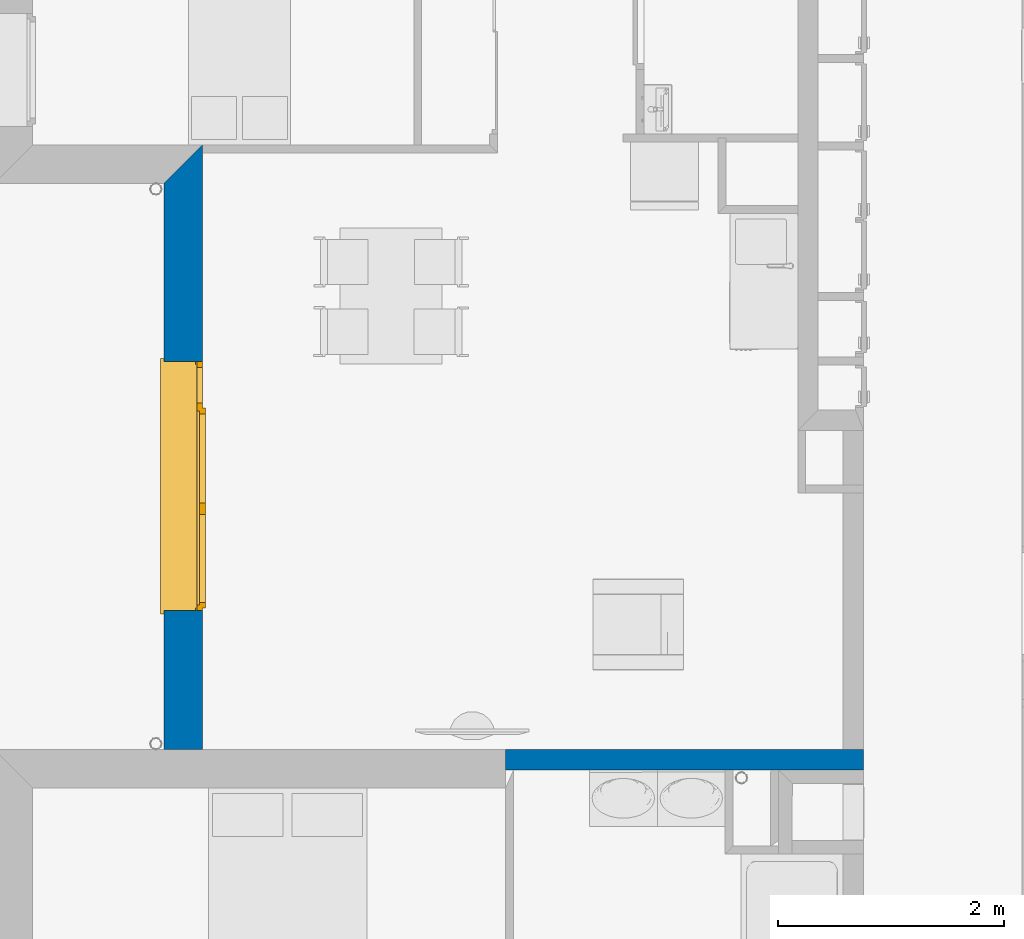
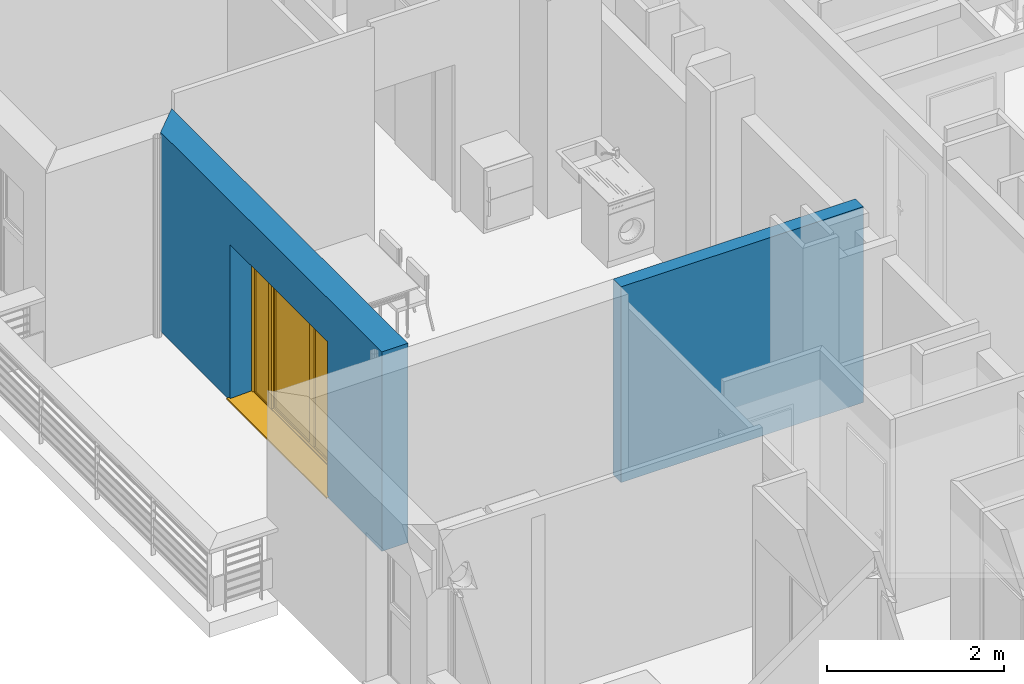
# One storey, part 20 of 164: 2 walls, 1 window, 1 opening.
"""IFC2X3 building model written with IfcOpenShell, lengths in millimetres."""

from ifc_helpers import new_model, entity, si_unit, converted_unit, derived_unit, money_unit, direction, frame, origin_with_axes, place, context, subcontext, project, spatial, polyline, outline, extrude, open_shell, faceted_brep, surface_model, source, transform, mapped, material, layer, layer_set, layer_usage, type_object, element, fill, save


model = new_model("IFC2X3")

# Units and contexts
model_context = context("Model", 3, precision=0.01, world=origin_with_axes(), true_north=direction((0.0, 1.0)))
body_context = subcontext(model_context, "Body", "Model", "MODEL_VIEW")
ifc_project = project(units=[si_unit("LENGTHUNIT", "METRE", prefix="MILLI"), si_unit("AREAUNIT", "SQUARE_METRE"), si_unit("VOLUMEUNIT", "CUBIC_METRE"), converted_unit("PLANEANGLEUNIT", "DEGREE", entity("IfcPlaneAngleMeasure", 0.0174532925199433), si_unit("PLANEANGLEUNIT", "RADIAN"), dimensions=[0, 0, 0, 0, 0, 0, 0]), money_unit("USD"), converted_unit("TIMEUNIT", "Year", entity("IfcTimeMeasure", 31557600.0), si_unit("TIMEUNIT", "SECOND"), dimensions=[0, 0, 1, 0, 0, 0, 0]), si_unit("MASSUNIT", "GRAM", prefix="KILO"), si_unit("THERMODYNAMICTEMPERATUREUNIT", "DEGREE_CELSIUS"), si_unit("LUMINOUSINTENSITYUNIT", "LUMEN"), si_unit("ENERGYUNIT", "JOULE", prefix="MEGA"), derived_unit("THERMALCONDUCTANCEUNIT", [(si_unit("POWERUNIT", "WATT"), 1), (si_unit("LENGTHUNIT", "METRE"), -1), (si_unit("THERMODYNAMICTEMPERATUREUNIT", "KELVIN"), -1)]), derived_unit("SPECIFICHEATCAPACITYUNIT", [(si_unit("ENERGYUNIT", "JOULE"), 1), (si_unit("MASSUNIT", "GRAM", prefix="KILO"), -1), (si_unit("THERMODYNAMICTEMPERATUREUNIT", "KELVIN"), -1)]), derived_unit("MASSDENSITYUNIT", [(si_unit("MASSUNIT", "GRAM", prefix="KILO"), 1), (si_unit("VOLUMEUNIT", "CUBIC_METRE"), -1)])], contexts=[model_context])

# Site, building, storey
site_placement = place(None, origin_with_axes())
site = spatial("IfcSite", under=ifc_project, at=site_placement, Name="Site", CompositionType="ELEMENT")
building_placement = place(site_placement, origin_with_axes())
building = spatial("IfcBuilding", under=site, at=building_placement, Name="Bâtiment", CompositionType="ELEMENT")
storey_placement = place(building_placement, frame((0.0, 0.0, 5750.0), z_axis=(0.0, 0.0, 1.0), x_axis=(1.0, 0.0, 0.0)))
storey = spatial("IfcBuildingStorey", under=building, at=storey_placement, Name="Etage1", CompositionType="ELEMENT", Elevation=5750.0)

# Wall
ifc_material_1 = material(Name="Parpaing 314940890")
ifc_layer_1 = layer(ifc_material_1, 180.0, ventilated="UNKNOWN")
ifc_layer_set_1 = layer_set([ifc_layer_1], Name="Beton  18 0018356637")
ifc_layer_usage_1 = layer_usage(ifc_layer_set_1, "AXIS2", "NEGATIVE", 0.0)
wall_type_1 = type_object("IfcWallType", Name="Beton  18 0018356637 180", PredefinedType="NOTDEFINED")
wall_1_placement = place(storey_placement, frame((2221152.351167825, -644016.3764661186, 0.0), z_axis=(0.0, 0.0, 1.0), x_axis=(0.9999999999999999, 1.891933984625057e-08, 0.0)))
element("IfcWallStandardCase", 1, at=wall_1_placement, inside=storey, type_object=wall_type_1, material=ifc_layer_usage_1, Name="Mur-142", context=body_context, shape_type="SweptSolid", body=[
    extrude(outline(polyline([(-5.654783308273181e-07, -180.0000000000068), (3160.032008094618, -180.0000000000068), (3160.032008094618, 0.0), (-1.13686837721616e-10, 0.0), (-5.654783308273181e-07, -180.0000000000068)])), origin_with_axes(), (0.0, 0.0, 1.0), 2700.0),
])

# Wall, opening, window
ifc_material_2 = material(Name="Parpaing 312445824")
ifc_layer_2 = layer(ifc_material_2, 180.0, ventilated="UNKNOWN")
ifc_material_3 = material(Name="Isolant styromousse 301821074")
ifc_layer_3 = layer(ifc_material_3, 160.0, ventilated="UNKNOWN")
ifc_layer_set_2 = layer_set([ifc_layer_2, ifc_layer_3], Name="isol int 18+16 0018356637")
ifc_layer_usage_2 = layer_usage(ifc_layer_set_2, "AXIS2", "POSITIVE", 0.0)
wall_type_2 = type_object("IfcWallType", Name="isol int 18+16 0018356637 340", PredefinedType="NOTDEFINED")
wall_2_placement = place(storey_placement, frame((2218134.314050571, -639016.8076992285, 0.0), z_axis=(0.0, 0.0, 1.0), x_axis=(-1.614254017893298e-05, -0.9999999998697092, 0.0)))
wall_2 = element("IfcWallStandardCase", 2, at=wall_2_placement, inside=storey, type_object=wall_type_2, material=ifc_layer_usage_2, Name="Mur-143", context=body_context, shape_type="SweptSolid", body=[
    extrude(outline(polyline([(0.0, 0.0), (4999.568805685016, 0.0), (4999.563312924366, 340.0000000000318), (-340.0054885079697, 339.9999999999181), (0.0, 0.0)])), origin_with_axes(), (0.0, 0.0, 1.0), 2750.0),
])
opening_placement = place(wall_2_placement, frame((2673.994690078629, -1.13686837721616e-10, 0.0), z_axis=(0.0, 0.0, 1.0), x_axis=(1.0, 0.0, 0.0)))
opening = element("IfcOpeningElement", 3, at=opening_placement, cuts=wall_2, Name="Fen-133", context=body_context, shape_type="Brep", body=[
    faceted_brep([(-1100.000000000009, 290.000000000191, 2150.0), (-1100.000000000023, 341.080705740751, 2150.0), (-1100.000000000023, 341.080705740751, 0.0), (-1100.000000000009, 290.000000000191, 0.0), (-1100.000000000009, 280.0000000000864, 2150.0), (-1100.000000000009, 280.0000000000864, 2400.0), (-1100.000000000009, 530.0000000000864, 2400.0), (-1100.000000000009, 530.0000000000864, 2150.0), (1099.99999999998, 341.0807057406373, 2150.0), (1099.99999999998, 341.0807057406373, 0.0), (1099.999999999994, 290.0000000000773, 0.0), (1099.999999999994, -1.080705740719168, 0.0), (-1100.000000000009, -1.080705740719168, 0.0), (-1100.000000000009, -1.080705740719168, 2150.0), (1099.999999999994, 280.0000000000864, 2150.0), (1099.999999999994, 280.0000000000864, 2400.0), (1099.999999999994, 530.0000000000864, 2400.0), (1099.999999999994, 530.0000000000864, 2150.0), (1099.999999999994, 290.0000000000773, 2150.0), (1099.999999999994, -1.080705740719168, 2150.0)], [[[0, 1, 2, 3]], [[1, 0, 4, 5, 6, 7]], [[1, 8, 9, 2]], [[10, 11, 12, 3, 2, 9]], [[4, 0, 3, 12, 13]], [[4, 14, 15, 5]], [[6, 5, 15, 16]], [[7, 6, 16, 17]], [[8, 1, 7, 17]], [[8, 18, 10, 9]], [[18, 14, 19, 11, 10]], [[13, 12, 11, 19]], [[14, 4, 13, 19]], [[18, 8, 17, 16, 15, 14]]]),
])
window_style = type_object("IfcWindowStyle", Name="Fenêtre châssis double variable 27", ConstructionType="NOTDEFINED", OperationType="TRIPLE_PANEL_VERTICAL", ParameterTakesPrecedence=False, Sizeable=False)
shared_shape = source(origin_with_axes(), body_context, "Body", "SurfaceModel", [
    surface_model("IfcShellBasedSurfaceModel", [(-1100.0, -51.00000000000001, 40.00000000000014), (1100.0, -51.00000000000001, 40.0), (1100.0, -51.00000000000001, 50.0), (-1100.0, -51.00000000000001, 50.00000000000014), (-1130.0, -369.9999999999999, 28.96551724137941), (1130.0, -369.9999999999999, 28.96551724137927), (1130.0, -339.9999999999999, 30.00324289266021), (1100.0, -339.9999999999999, 30.00324289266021), (-1100.0, -339.9999999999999, 30.00324289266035), (-1130.0, -339.9999999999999, 30.00324289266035), (-1130.0, -369.9999999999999, 8.965517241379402), (1130.0, -369.9999999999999, 8.965517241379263), (-1130.0, -359.9999999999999, 18.9655172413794), (1130.0, -359.9999999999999, 18.96551724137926)], [open_shell([[[0, 1, 2, 3]], [[4, 5, 6, 7, 1, 0, 8, 9]], [[10, 11, 5, 4]], [[12, 13, 11, 10]]])]),
    faceted_brep([(1100.0, -60.00000000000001, 2400.0), (1100.0, 190.0, 2400.0), (1097.0, 190.0, 2400.0), (1097.0, -60.00000000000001, 2400.0), (1100.0, -60.00000000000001, 2150.0), (1100.0, 190.0, 2150.0), (1097.0, 190.0, 2150.0), (1097.0, -60.00000000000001, 2150.0)], [[[0, 1, 2, 3]], [[0, 4, 5, 1]], [[1, 5, 6, 2]], [[3, 2, 6, 7]], [[4, 0, 3, 7]], [[5, 4, 7, 6]]]),
    faceted_brep([(-1097.0, -59.99999999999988, 2400.0), (-1097.0, 190.0000000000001, 2400.0), (-1100.0, 190.0000000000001, 2400.0), (-1100.0, -59.99999999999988, 2400.0), (-1097.0, -59.99999999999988, 2150.0), (-1097.0, 190.0000000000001, 2150.0), (-1100.0, 190.0000000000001, 2150.0), (-1100.0, -59.99999999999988, 2150.0)], [[[0, 1, 2, 3]], [[0, 4, 5, 1]], [[1, 5, 6, 2]], [[3, 2, 6, 7]], [[4, 0, 3, 7]], [[5, 4, 7, 6]]]),
    faceted_brep([(1097.0, -60.0, 2150.0), (1097.0, -60.0, 2400.0), (-1097.0, -59.99999999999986, 2400.0), (-1097.0, -59.99999999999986, 2150.0), (1097.0, -56.99999999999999, 2150.0), (1097.0, -56.99999999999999, 2397.0), (1097.0, 187.0, 2397.0), (1097.0, 187.0, 2153.0), (1097.0, -37.99999999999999, 2153.0), (1097.0, -37.99999999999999, 2150.0), (1097.0, 190.0, 2150.0), (1097.0, 190.0, 2400.0), (-1097.0, 190.0000000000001, 2400.0), (-1097.0, 190.0000000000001, 2150.0), (-1097.0, -37.99999999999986, 2150.0), (-1097.0, -37.99999999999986, 2153.0), (-1097.0, 187.0000000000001, 2153.0), (-1097.0, 187.0000000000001, 2397.0), (-1097.0, -56.99999999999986, 2397.0), (-1097.0, -56.99999999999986, 2150.0)], [[[0, 1, 2, 3]], [[0, 4, 5, 6, 7, 8, 9, 10, 11, 1]], [[1, 11, 12, 2]], [[3, 2, 12, 13, 14, 15, 16, 17, 18, 19]], [[4, 0, 3, 19]], [[5, 4, 19, 18]], [[6, 5, 18, 17]], [[7, 6, 17, 16]], [[8, 7, 16, 15]], [[9, 8, 15, 14]], [[10, 9, 14, 13]], [[11, 10, 13, 12]]]),
    faceted_brep([(1094.0, -40.37442957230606, 2256.419644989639), (1094.0, -35.54711042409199, 2238.403844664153), (1094.0, -27.66471820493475, 2221.5), (1094.0, -16.9667554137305, 2206.22172576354), (1094.0, -3.778274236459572, 2193.033244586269), (1094.0, 11.50000000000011, 2182.335281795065), (1094.0, 28.40384466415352, 2174.452889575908), (1094.0, 46.4196449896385, 2169.625570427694), (1094.0, 65.00000000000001, 2168.0), (1094.0, 83.58035501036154, 2169.625570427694), (1094.0, 101.5961553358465, 2174.452889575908), (1094.0, 118.4999999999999, 2182.335281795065), (1094.0, 133.7782742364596, 2193.033244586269), (1094.0, 146.9667554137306, 2206.22172576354), (1094.0, 157.6647182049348, 2221.5), (1094.0, 165.5471104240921, 2238.403844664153), (1094.0, 170.3744295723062, 2256.419644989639), (1094.0, 171.9999999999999, 2275.0), (1094.0, 170.3744295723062, 2293.580355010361), (1094.0, 165.5471104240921, 2311.596155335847), (1094.0, 157.6647182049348, 2328.5), (1094.0, 146.9667554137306, 2343.77827423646), (1094.0, 133.7782742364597, 2356.96675541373), (1094.0, 118.5, 2367.664718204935), (1094.0, 101.5961553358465, 2375.547110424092), (1094.0, 83.58035501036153, 2380.374429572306), (1094.0, 64.99999999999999, 2382.0), (1094.0, 46.41964498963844, 2380.374429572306), (1094.0, 28.40384466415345, 2375.547110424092), (1094.0, 11.5, 2367.664718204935), (1094.0, -3.778274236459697, 2356.96675541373), (1094.0, -16.96675541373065, 2343.77827423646), (1094.0, -27.66471820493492, 2328.5), (1094.0, -35.54711042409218, 2311.596155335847), (1094.0, -40.37442957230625, 2293.580355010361), (1094.0, -41.99999999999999, 2275.0), (-1094.0, -40.37442957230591, 2256.419644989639), (-1094.0, -35.54711042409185, 2238.403844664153), (-1094.0, -27.66471820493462, 2221.5), (-1094.0, -16.96675541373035, 2206.22172576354), (-1094.0, -3.778274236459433, 2193.033244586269), (-1094.0, 11.50000000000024, 2182.335281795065), (-1094.0, 28.40384466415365, 2174.452889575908), (-1094.0, 46.41964498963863, 2169.625570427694), (-1094.0, 65.00000000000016, 2168.0), (-1094.0, 83.58035501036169, 2169.625570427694), (-1094.0, 101.5961553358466, 2174.452889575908), (-1094.0, 118.5000000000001, 2182.335281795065), (-1094.0, 133.7782742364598, 2193.033244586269), (-1094.0, 146.9667554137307, 2206.22172576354), (-1094.0, 157.664718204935, 2221.5), (-1094.0, 165.5471104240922, 2238.403844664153), (-1094.0, 170.3744295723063, 2256.419644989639), (-1094.0, 172.0, 2275.0), (-1094.0, 170.3744295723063, 2293.580355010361), (-1094.0, 165.5471104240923, 2311.596155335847), (-1094.0, 157.664718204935, 2328.5), (-1094.0, 146.9667554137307, 2343.77827423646), (-1094.0, 133.7782742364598, 2356.96675541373), (-1094.0, 118.5000000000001, 2367.664718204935), (-1094.0, 101.5961553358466, 2375.547110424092), (-1094.0, 83.58035501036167, 2380.374429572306), (-1094.0, 65.00000000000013, 2382.0), (-1094.0, 46.41964498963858, 2380.374429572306), (-1094.0, 28.40384466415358, 2375.547110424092), (-1094.0, 11.50000000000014, 2367.664718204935), (-1094.0, -3.778274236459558, 2356.96675541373), (-1094.0, -16.96675541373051, 2343.77827423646), (-1094.0, -27.66471820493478, 2328.5), (-1094.0, -35.54711042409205, 2311.596155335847), (-1094.0, -40.37442957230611, 2293.580355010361), (-1094.0, -41.99999999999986, 2275.0)], [[[0, 1, 2, 3, 4, 5, 6, 7, 8, 9, 10, 11, 12, 13, 14, 15, 16, 17, 18, 19, 20, 21, 22, 23, 24, 25, 26, 27, 28, 29, 30, 31, 32, 33, 34, 35]], [[1, 0, 36, 37]], [[2, 1, 37, 38]], [[3, 2, 38, 39]], [[4, 3, 39, 40]], [[5, 4, 40, 41]], [[6, 5, 41, 42]], [[7, 6, 42, 43]], [[8, 7, 43, 44]], [[9, 8, 44, 45]], [[10, 9, 45, 46]], [[11, 10, 46, 47]], [[12, 11, 47, 48]], [[13, 12, 48, 49]], [[14, 13, 49, 50]], [[15, 14, 50, 51]], [[16, 15, 51, 52]], [[17, 16, 52, 53]], [[18, 17, 53, 54]], [[19, 18, 54, 55]], [[20, 19, 55, 56]], [[21, 20, 56, 57]], [[22, 21, 57, 58]], [[23, 22, 58, 59]], [[24, 23, 59, 60]], [[25, 24, 60, 61]], [[26, 25, 61, 62]], [[27, 26, 62, 63]], [[28, 27, 63, 64]], [[29, 28, 64, 65]], [[30, 29, 65, 66]], [[31, 30, 66, 67]], [[32, 31, 67, 68]], [[33, 32, 68, 69]], [[34, 33, 69, 70]], [[35, 34, 70, 71]], [[0, 35, 71, 36]], [[36, 71, 70, 69, 68, 67, 66, 65, 64, 63, 62, 61, 60, 59, 58, 57, 56, 55, 54, 53, 52, 51, 50, 49, 48, 47, 46, 45, 44, 43, 42, 41, 40, 39, 38, 37]]]),
    faceted_brep([(-1100.0, -34.99999999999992, 30.0), (-1100.0, -59.99999999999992, 30.0), (-1100.0, -59.99999999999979, 2150.0), (-1100.0, -34.99999999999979, 2150.0), (-1075.0, -34.99999999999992, 30.0), (-1075.0, -37.99999999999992, 30.0), (-1097.0, -37.99999999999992, 30.0), (-1097.0, -56.99999999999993, 30.0), (-1075.0, -56.99999999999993, 30.0), (-1075.0, -59.99999999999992, 30.0), (-1075.0, -59.99999999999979, 2150.0), (-1075.0, -56.99999999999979, 2150.0), (-1097.0, -56.99999999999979, 2150.0), (-1097.0, -37.99999999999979, 2150.0), (-1075.0, -37.99999999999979, 2150.0), (-1075.0, -34.99999999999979, 2150.0)], [[[0, 1, 2, 3]], [[0, 4, 5, 6, 7, 8, 9, 1]], [[1, 9, 10, 2]], [[3, 2, 10, 11, 12, 13, 14, 15]], [[4, 0, 3, 15]], [[5, 4, 15, 14]], [[6, 5, 14, 13]], [[7, 6, 13, 12]], [[8, 7, 12, 11]], [[9, 8, 11, 10]]]),
    faceted_brep([(1100.0, -34.99999999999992, 30.0), (1100.0, -34.99999999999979, 2150.0), (1100.0, -59.99999999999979, 2150.0), (1100.0, -59.99999999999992, 30.0), (1075.0, -34.99999999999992, 30.0), (1075.0, -34.99999999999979, 2150.0), (1075.0, -37.99999999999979, 2150.0), (1097.0, -37.99999999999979, 2150.0), (1097.0, -56.99999999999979, 2150.0), (1075.0, -56.99999999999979, 2150.0), (1075.0, -59.99999999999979, 2150.0), (1075.0, -59.99999999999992, 30.0), (1075.0, -56.99999999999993, 30.0), (1097.0, -56.99999999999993, 30.0), (1097.0, -37.99999999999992, 30.0), (1075.0, -37.99999999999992, 30.0)], [[[0, 1, 2, 3]], [[4, 5, 1, 0]], [[1, 5, 6, 7, 8, 9, 10, 2]], [[3, 2, 10, 11]], [[0, 3, 11, 12, 13, 14, 15, 4]], [[15, 6, 5, 4]], [[14, 7, 6, 15]], [[13, 8, 7, 14]], [[12, 9, 8, 13]], [[11, 10, 9, 12]]]),
    faceted_brep([(-1097.0, -46.66666666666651, 2275.0), (1097.0, -46.66666666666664, 2275.0), (1097.0, -46.66666666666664, 2266.666666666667), (-1097.0, -46.66666666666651, 2266.666666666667), (-1097.0, -51.66666666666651, 2275.0), (1097.0, -51.66666666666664, 2275.0), (1097.0, -51.66666666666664, 2266.666666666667), (1097.0, -49.99999999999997, 2250.0), (1097.0, -44.99999999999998, 2250.0), (-1097.0, -44.99999999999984, 2250.0), (-1097.0, -49.99999999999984, 2250.0), (-1097.0, -51.66666666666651, 2266.666666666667)], [[[0, 1, 2, 3]], [[1, 0, 4, 5]], [[1, 5, 6, 7, 8, 2]], [[2, 8, 9, 3]], [[4, 0, 3, 9, 10, 11]], [[6, 5, 4, 11]], [[7, 6, 11, 10]], [[8, 7, 10, 9]]]),
    faceted_brep([(1097.0, -44.99999999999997, 2250.0), (1097.0, -46.66666666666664, 2233.333333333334), (-1097.0, -46.66666666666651, 2233.333333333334), (-1097.0, -44.99999999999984, 2250.0), (1097.0, -49.99999999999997, 2250.0), (1097.0, -51.66666666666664, 2233.333333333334), (1097.0, -51.66666666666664, 2216.666666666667), (1097.0, -49.99999999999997, 2200.0), (1097.0, -44.99999999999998, 2200.0), (1097.0, -46.66666666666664, 2216.666666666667), (-1097.0, -46.66666666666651, 2216.666666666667), (-1097.0, -44.99999999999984, 2200.0), (-1097.0, -49.99999999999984, 2200.0), (-1097.0, -51.66666666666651, 2216.666666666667), (-1097.0, -51.66666666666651, 2233.333333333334), (-1097.0, -49.99999999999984, 2250.0)], [[[0, 1, 2, 3]], [[0, 4, 5, 6, 7, 8, 9, 1]], [[1, 9, 10, 2]], [[3, 2, 10, 11, 12, 13, 14, 15]], [[4, 0, 3, 15]], [[5, 4, 15, 14]], [[6, 5, 14, 13]], [[7, 6, 13, 12]], [[8, 7, 12, 11]], [[9, 8, 11, 10]]]),
    faceted_brep([(1097.0, -44.99999999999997, 2200.0), (1097.0, -46.66666666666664, 2183.333333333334), (-1097.0, -46.66666666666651, 2183.333333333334), (-1097.0, -44.99999999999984, 2200.0), (1097.0, -49.99999999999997, 2200.0), (1097.0, -51.66666666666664, 2183.333333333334), (1097.0, -51.66666666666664, 2166.666666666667), (1097.0, -49.99999999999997, 2150.000000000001), (1097.0, -44.99999999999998, 2150.000000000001), (1097.0, -46.66666666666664, 2166.666666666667), (-1097.0, -46.66666666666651, 2166.666666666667), (-1097.0, -44.99999999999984, 2150.000000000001), (-1097.0, -49.99999999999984, 2150.000000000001), (-1097.0, -51.66666666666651, 2166.666666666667), (-1097.0, -51.66666666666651, 2183.333333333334), (-1097.0, -49.99999999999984, 2200.0)], [[[0, 1, 2, 3]], [[0, 4, 5, 6, 7, 8, 9, 1]], [[1, 9, 10, 2]], [[3, 2, 10, 11, 12, 13, 14, 15]], [[4, 0, 3, 15]], [[5, 4, 15, 14]], [[6, 5, 14, 13]], [[7, 6, 13, 12]], [[8, 7, 12, 11]], [[9, 8, 11, 10]]]),
    faceted_brep([(1075.0, 0.0, 2100.0), (1075.0, -25.00000000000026, 2100.0), (1050.0, -25.00000000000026, 2100.0), (1050.0, -50.00000000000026, 2100.0), (1100.0, -50.00000000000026, 2100.0), (1100.0, 0.0, 2100.0), (1075.0, 0.0, 50.00000000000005), (1075.0, -25.00000000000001, 50.00000000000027), (1050.0, -25.00000000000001, 50.00000000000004), (1050.0, -50.00000000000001, 50.00000000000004), (1100.0, -50.00000000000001, 50.00000000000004), (1100.0, 0.0, 50.00000000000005)], [[[0, 1, 2, 3, 4, 5]], [[1, 0, 6, 7]], [[8, 2, 1, 7]], [[2, 8, 9, 3]], [[4, 3, 9, 10]], [[5, 4, 10, 11]], [[6, 0, 5, 11]], [[7, 6, 11, 10, 9, 8]]]),
    faceted_brep([(-665.0, -25.00000000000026, 2100.0), (-690.0000000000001, -25.00000000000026, 2100.0), (-690.0000000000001, 0.0, 2100.0), (-735.0000000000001, 0.0, 2100.0), (-735.0000000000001, -50.00000000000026, 2100.0), (-665.0, -50.00000000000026, 2100.0), (-665.0, -25.00000000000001, 50.00000000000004), (-690.0000000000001, -25.00000000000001, 50.00000000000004), (-690.0000000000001, 0.0, 50.00000000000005), (-735.0000000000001, 0.0, 50.00000000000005), (-735.0000000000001, -50.00000000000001, 50.00000000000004), (-665.0, -50.00000000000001, 50.00000000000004)], [[[0, 1, 2, 3, 4, 5]], [[1, 0, 6, 7]], [[8, 2, 1, 7]], [[2, 8, 9, 3]], [[9, 10, 4, 3]], [[10, 11, 5, 4]], [[6, 0, 5, 11]], [[7, 6, 11, 10, 9, 8]]]),
    faceted_brep([(-665.0, -25.00000000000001, 50.00000000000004), (-690.0000000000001, -25.00000000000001, 50.00000000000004), (-690.0000000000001, 0.0, 50.00000000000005), (-735.0000000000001, 0.0, 50.00000000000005), (-735.0000000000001, -50.00000000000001, 50.00000000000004), (-665.0, -50.00000000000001, 50.00000000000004), (1050.0, -25.00000000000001, 50.00000000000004), (1075.0, -25.00000000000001, 50.00000000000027), (1075.0, -25.0, 24.99999999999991), (-690.0000000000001, -25.0, 24.99999999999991), (-690.0000000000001, 0.0, 24.99999999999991), (1075.0, 0.0, 24.99999999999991), (1075.0, 0.0, 50.00000000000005), (1100.0, 0.0, 50.00000000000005), (1100.0, 0.0, 0.0), (-1100.0, 0.0, 0.0), (-1100.0, 0.0, 50.00000000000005), (-1050.0, 0.0, 50.00000000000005), (-1050.0, -50.00000000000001, 50.00000000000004), (1100.0, -50.00000000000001, 50.00000000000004), (1050.0, -50.00000000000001, 50.00000000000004), (-1100.0, -50.00000000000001, 50.00000000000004), (-1100.0, -50.0, 0.0), (1100.0, -50.0, 0.0)], [[[0, 1, 2, 3, 4, 5]], [[1, 0, 6, 7, 8, 9]], [[10, 2, 1, 9]], [[11, 12, 13, 14, 15, 16, 17, 3, 2, 10]], [[17, 18, 4, 3]], [[19, 20, 5, 4, 18, 21, 22, 23]], [[6, 0, 5, 20]], [[7, 6, 20, 19, 13, 12]], [[7, 12, 11, 8]], [[11, 10, 9, 8]], [[13, 19, 23, 14]], [[14, 23, 22, 15]], [[15, 22, 21, 16]], [[16, 21, 18, 17]]]),
    faceted_brep([(1075.0, 0.0, 2100.0), (1075.0, 0.0, 2125.0), (-690.0000000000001, 0.0, 2125.0), (-690.0000000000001, 0.0, 2100.0), (-735.0000000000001, 0.0, 2100.0), (-1050.0, 0.0, 2100.0), (-1100.0, 0.0, 2100.0), (-1100.0, 0.0, 2150.0), (1100.0, 0.0, 2150.0), (1100.0, 0.0, 2100.0), (1075.0, -25.00000000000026, 2100.0), (1075.0, -25.00000000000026, 2125.0), (-690.0000000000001, -25.00000000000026, 2125.0), (-690.0000000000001, -25.00000000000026, 2100.0), (-665.0, -25.00000000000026, 2100.0), (-665.0, -50.00000000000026, 2100.0), (-735.0000000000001, -50.00000000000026, 2100.0), (-1050.0, -50.00000000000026, 2100.0), (-1100.0, -50.00000000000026, 2100.0), (-1100.0, -50.00000000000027, 2150.0), (1100.0, -50.00000000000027, 2150.0), (1100.0, -50.00000000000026, 2100.0), (1050.0, -50.00000000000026, 2100.0), (1050.0, -25.00000000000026, 2100.0)], [[[0, 1, 2, 3, 4, 5, 6, 7, 8, 9]], [[1, 0, 10, 11]], [[2, 1, 11, 12]], [[3, 2, 12, 13]], [[13, 14, 15, 16, 4, 3]], [[4, 16, 17, 5]], [[5, 17, 18, 6]], [[6, 18, 19, 7]], [[7, 19, 20, 8]], [[8, 20, 21, 9]], [[10, 0, 9, 21, 22, 23]], [[14, 13, 12, 11, 10, 23]], [[14, 23, 22, 15]], [[16, 15, 22, 21, 20, 19, 18, 17]]]),
    faceted_brep([(-1050.0, -50.00000000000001, 50.0), (-1100.0, -50.00000000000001, 50.0), (-1100.0, 0.0, 50.00000000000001), (-1050.0, 0.0, 50.00000000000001), (-1050.0, -50.00000000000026, 2100.0), (-1100.0, -50.00000000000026, 2100.0), (-1100.0, 0.0, 2100.0), (-1050.0, 0.0, 2100.0)], [[[0, 1, 2, 3]], [[0, 4, 5, 1]], [[1, 5, 6, 2]], [[3, 2, 6, 7]], [[4, 0, 3, 7]], [[5, 4, 7, 6]]]),
    faceted_brep([(1025.0, -25.00000000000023, 2075.0), (1075.0, -25.00000000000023, 2075.0), (1075.0, 24.99999999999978, 2075.0), (1025.0, 24.99999999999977, 2075.0), (1025.0, -24.99999999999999, 75.00000000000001), (1075.0, -24.99999999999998, 75.00000000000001), (1075.0, 25.00000000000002, 75.00000000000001), (1025.0, 25.00000000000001, 75.00000000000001)], [[[0, 1, 2, 3]], [[0, 4, 5, 1]], [[1, 5, 6, 2]], [[3, 2, 6, 7]], [[4, 0, 3, 7]], [[5, 4, 7, 6]]]),
    faceted_brep([(249.9999999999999, -25.00000000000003, 75.00000000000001), (199.9999999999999, -25.00000000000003, 75.00000000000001), (199.9999999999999, 24.99999999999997, 75.00000000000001), (249.9999999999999, 24.99999999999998, 75.00000000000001), (249.9999999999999, -25.00000000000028, 2075.0), (199.9999999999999, -25.00000000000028, 2075.0), (199.9999999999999, 24.99999999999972, 2075.0), (249.9999999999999, 24.99999999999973, 2075.0)], [[[0, 1, 2, 3]], [[0, 4, 5, 1]], [[1, 5, 6, 2]], [[3, 2, 6, 7]], [[4, 0, 3, 7]], [[5, 4, 7, 6]]]),
    faceted_brep([(199.9999999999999, -25.00000000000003, 25.0), (199.9999999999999, -25.00000000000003, 75.00000000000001), (199.9999999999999, 24.99999999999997, 75.00000000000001), (199.9999999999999, 24.99999999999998, 25.00000000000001), (1075.0, -24.99999999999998, 25.0), (1075.0, -24.99999999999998, 75.00000000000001), (1025.0, -24.99999999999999, 75.00000000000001), (249.9999999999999, -25.00000000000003, 75.00000000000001), (249.9999999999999, 24.99999999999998, 75.00000000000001), (1025.0, 25.00000000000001, 75.00000000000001), (1075.0, 25.00000000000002, 75.00000000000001), (1075.0, 25.00000000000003, 25.00000000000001)], [[[0, 1, 2, 3]], [[0, 4, 5, 6, 7, 1]], [[1, 7, 8, 2]], [[3, 2, 8, 9, 10, 11]], [[4, 0, 3, 11]], [[5, 4, 11, 10]], [[6, 5, 10, 9]], [[7, 6, 9, 8]]]),
    faceted_brep([(1075.0, -25.00000000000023, 2125.0), (1075.0, -25.00000000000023, 2075.0), (1075.0, 24.99999999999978, 2075.0), (1075.0, 24.99999999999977, 2125.0), (199.9999999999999, -25.00000000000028, 2125.0), (199.9999999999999, -25.00000000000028, 2075.0), (249.9999999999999, -25.00000000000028, 2075.0), (1025.0, -25.00000000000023, 2075.0), (1025.0, 24.99999999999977, 2075.0), (249.9999999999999, 24.99999999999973, 2075.0), (199.9999999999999, 24.99999999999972, 2075.0), (199.9999999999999, 24.99999999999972, 2125.0)], [[[0, 1, 2, 3]], [[0, 4, 5, 6, 7, 1]], [[1, 7, 8, 2]], [[3, 2, 8, 9, 10, 11]], [[4, 0, 3, 11]], [[5, 4, 11, 10]], [[6, 5, 10, 9]], [[7, 6, 9, 8]]]),
    surface_model("IfcShellBasedSurfaceModel", [(1025.0, -10.00000000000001, 75.00000000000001), (1025.0, -10.00000000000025, 2075.0), (249.9999999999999, -10.00000000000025, 2075.0), (249.9999999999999, -10.00000000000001, 75.00000000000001)], [open_shell([[[0, 1, 2, 3]]])]),
    surface_model("IfcShellBasedSurfaceModel", [(1025.0, 9.999999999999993, 75.00000000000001), (249.9999999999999, 9.999999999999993, 75.00000000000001), (249.9999999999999, 9.99999999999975, 2075.0), (1025.0, 9.99999999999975, 2075.0)], [open_shell([[[0, 1, 2, 3]]])]),
    faceted_brep([(150.0, -25.00000000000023, 2075.0), (199.9999999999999, -25.00000000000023, 2075.0), (199.9999999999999, 24.99999999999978, 2075.0), (150.0, 24.99999999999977, 2075.0), (150.0, -24.99999999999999, 75.00000000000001), (199.9999999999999, -24.99999999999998, 75.00000000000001), (199.9999999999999, 25.00000000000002, 75.00000000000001), (150.0, 25.00000000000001, 75.00000000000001)], [[[0, 1, 2, 3]], [[0, 4, 5, 1]], [[1, 5, 6, 2]], [[3, 2, 6, 7]], [[4, 0, 3, 7]], [[5, 4, 7, 6]]]),
    faceted_brep([(-640.0000000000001, -25.00000000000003, 75.00000000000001), (-690.0000000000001, -25.00000000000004, 75.00000000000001), (-690.0000000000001, 24.99999999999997, 75.00000000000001), (-640.0000000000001, 24.99999999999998, 75.00000000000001), (-640.0000000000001, -25.00000000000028, 2075.0), (-690.0000000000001, -25.00000000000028, 2075.0), (-690.0000000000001, 24.99999999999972, 2075.0), (-640.0000000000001, 24.99999999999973, 2075.0)], [[[0, 1, 2, 3]], [[0, 4, 5, 1]], [[1, 5, 6, 2]], [[3, 2, 6, 7]], [[4, 0, 3, 7]], [[5, 4, 7, 6]]]),
    faceted_brep([(-690.0000000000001, -25.00000000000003, 25.0), (-690.0000000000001, -25.00000000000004, 75.00000000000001), (-690.0000000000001, 24.99999999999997, 75.00000000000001), (-690.0000000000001, 24.99999999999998, 25.00000000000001), (199.9999999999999, -24.99999999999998, 25.0), (199.9999999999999, -24.99999999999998, 75.00000000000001), (150.0, -24.99999999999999, 75.00000000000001), (-640.0000000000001, -25.00000000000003, 75.00000000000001), (-640.0000000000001, 24.99999999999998, 75.00000000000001), (150.0, 25.00000000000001, 75.00000000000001), (199.9999999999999, 25.00000000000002, 75.00000000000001), (199.9999999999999, 25.00000000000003, 25.00000000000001)], [[[0, 1, 2, 3]], [[0, 4, 5, 6, 7, 1]], [[1, 7, 8, 2]], [[3, 2, 8, 9, 10, 11]], [[4, 0, 3, 11]], [[5, 4, 11, 10]], [[6, 5, 10, 9]], [[7, 6, 9, 8]]]),
    faceted_brep([(199.9999999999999, -25.00000000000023, 2125.0), (199.9999999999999, -25.00000000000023, 2075.0), (199.9999999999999, 24.99999999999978, 2075.0), (199.9999999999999, 24.99999999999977, 2125.0), (-690.0000000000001, -25.00000000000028, 2125.0), (-690.0000000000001, -25.00000000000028, 2075.0), (-640.0000000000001, -25.00000000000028, 2075.0), (150.0, -25.00000000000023, 2075.0), (150.0, 24.99999999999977, 2075.0), (-640.0000000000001, 24.99999999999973, 2075.0), (-690.0000000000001, 24.99999999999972, 2075.0), (-690.0000000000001, 24.99999999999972, 2125.0)], [[[0, 1, 2, 3]], [[0, 4, 5, 6, 7, 1]], [[1, 7, 8, 2]], [[3, 2, 8, 9, 10, 11]], [[4, 0, 3, 11]], [[5, 4, 11, 10]], [[6, 5, 10, 9]], [[7, 6, 9, 8]]]),
    surface_model("IfcShellBasedSurfaceModel", [(150.0, -10.00000000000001, 75.00000000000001), (150.0, -10.00000000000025, 2075.0), (-640.0000000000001, -10.00000000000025, 2075.0), (-640.0000000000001, -10.00000000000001, 75.00000000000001)], [open_shell([[[0, 1, 2, 3]]])]),
    surface_model("IfcShellBasedSurfaceModel", [(150.0, 9.999999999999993, 75.00000000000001), (-640.0000000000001, 9.999999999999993, 75.00000000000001), (-640.0000000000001, 9.99999999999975, 2075.0), (150.0, 9.99999999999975, 2075.0)], [open_shell([[[0, 1, 2, 3]]])]),
    surface_model("IfcShellBasedSurfaceModel", [(-735.0000000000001, -35.0, 49.99999999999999), (-735.0000000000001, -35.00000000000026, 2100.0), (-1050.0, -35.00000000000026, 2100.0), (-1050.0, -35.0, 49.99999999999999)], [open_shell([[[0, 1, 2, 3]]])]),
    surface_model("IfcShellBasedSurfaceModel", [(-735.0000000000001, -15.0, 49.99999999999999), (-1050.0, -15.0, 49.99999999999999), (-1050.0, -15.00000000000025, 2100.0), (-735.0000000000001, -15.00000000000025, 2100.0)], [open_shell([[[0, 1, 2, 3]]])]),
])
window_placement = place(opening_placement, frame((-1099.99999999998, 2.273736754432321e-10, 0.0), z_axis=(0.0, 0.0, 1.0), x_axis=(1.0, 0.0, 0.0)))
window = element("IfcWindow", 4, at=window_placement, inside=storey, type_object=window_style, Name="Fen-133", OverallHeight=2150.0, OverallWidth=2200.0, context=body_context, shape_type="MappedRepresentation", body=[
    mapped(shared_shape, transform((1099.999999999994, 339.9999999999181, 0.0))),
])
fill(opening, window)

save(model, "model.ifc")
